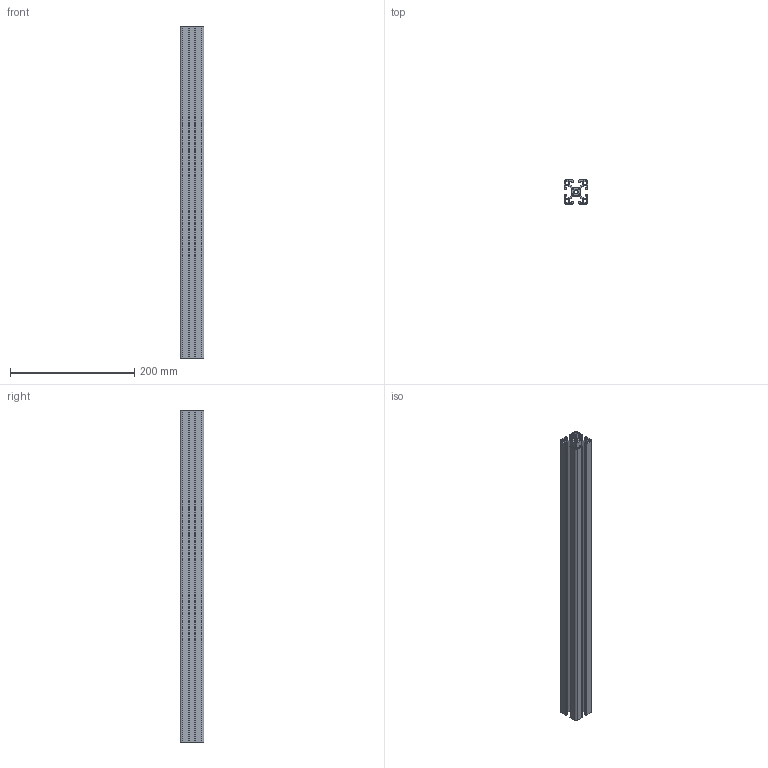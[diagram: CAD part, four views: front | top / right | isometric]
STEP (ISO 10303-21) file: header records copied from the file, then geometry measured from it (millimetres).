
FILE_DESCRIPTION(/* description */ ('STEP AP214'),/* implementation_level */ '2;1');
FILE_NAME(/* name */ '1515-ULS-21-CL',/* time_stamp */ '2023-08-13T18:32:21+02:00',/* author */ ('License CC BY-ND 4.0'),/* organization */ ('CADENAS'),/* preprocessor_version */ 'ST-DEVELOPER v19.3',/* originating_system */ 'PARTsolutions',/* authorisation */ ' ');
FILE_SCHEMA (('AUTOMOTIVE_DESIGN {1 0 10303 214 3 1 1}'));
Length unit declared in the file: inch
Products named in the file (1): 1515-ULS-21-CL
Bounding box: 38.1 x 38.1 x 533.4 mm (x, y, z)
Volume: 268556.2 mm3; surface area: 247718.9 mm2
Topology: 1 solids, 1 shells, 186 faces, 552 edges, 368 vertices
Faces by surface type: plane 94, cylinder 92
Entity records: 6332 total; most frequent: DIRECTION 1110, CARTESIAN_POINT 1107, ORIENTED_EDGE 1104, EDGE_CURVE 552, AXIS2_PLACEMENT_3D 371, LINE 368, VECTOR 368, VERTEX_POINT 368
